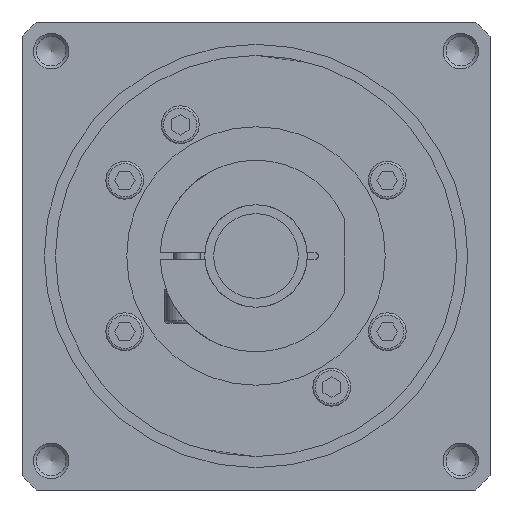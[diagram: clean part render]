
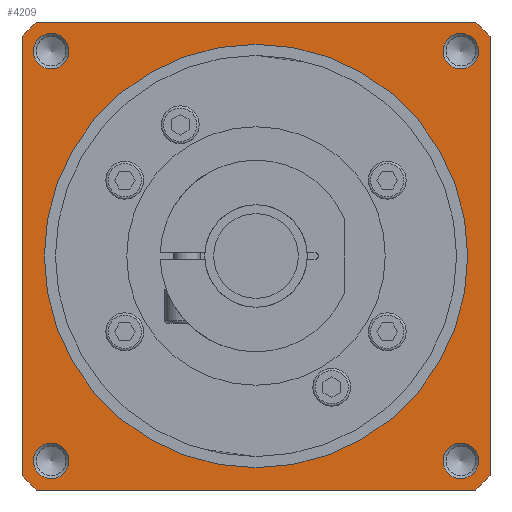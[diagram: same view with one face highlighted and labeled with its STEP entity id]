
A CAD part, left-side view. The second image highlights one B-rep face of the part: STEP entity #4209.
In plain terms, the highlighted planar face has unit normal (-1, 0, 0) as drawn and (0, 0, 1) by its records, which use the part's own axes.
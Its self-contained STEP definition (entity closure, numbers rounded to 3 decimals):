
#2697=LINE('',#12368,#3183);
#2701=LINE('',#12379,#3187);
#2707=LINE('',#12445,#3193);
#2711=LINE('',#12460,#3197);
#3183=VECTOR('',#10108,1.);
#3187=VECTOR('',#10116,1.);
#3193=VECTOR('',#10144,1.);
#3197=VECTOR('',#10162,1.);
#3566=PLANE('',#8730);
#3837=FACE_BOUND('',#4944,.T.);
#3838=FACE_BOUND('',#4945,.T.);
#3839=FACE_BOUND('',#4946,.T.);
#3840=FACE_BOUND('',#4947,.T.);
#3841=FACE_BOUND('',#4948,.T.);
#3842=FACE_BOUND('',#4949,.T.);
#4209=ADVANCED_FACE('',(#3837,#3838,#3839,#3840,#3841,#3842),#3566,.T.);
#4944=EDGE_LOOP('',(#6548));
#4945=EDGE_LOOP('',(#6549));
#4946=EDGE_LOOP('',(#6550));
#4947=EDGE_LOOP('',(#6551));
#4948=EDGE_LOOP('',(#6552));
#4949=EDGE_LOOP('',(#6553,#6554,#6555,#6556,#6557,#6558,#6559,#6560));
#5251=CIRCLE('',#8709,72.);
#5253=CIRCLE('',#8712,72.);
#5255=CIRCLE('',#8716,72.);
#5257=CIRCLE('',#8719,72.);
#5260=CIRCLE('',#8725,4.);
#5261=CIRCLE('',#8726,4.);
#5262=CIRCLE('',#8727,4.);
#5263=CIRCLE('',#8728,4.);
#5264=CIRCLE('',#8729,47.5);
#6548=ORIENTED_EDGE('',*,*,#8041,.T.);
#6549=ORIENTED_EDGE('',*,*,#8042,.T.);
#6550=ORIENTED_EDGE('',*,*,#8043,.T.);
#6551=ORIENTED_EDGE('',*,*,#8044,.T.);
#6552=ORIENTED_EDGE('',*,*,#8045,.T.);
#6553=ORIENTED_EDGE('',*,*,#8024,.T.);
#6554=ORIENTED_EDGE('',*,*,#8015,.T.);
#6555=ORIENTED_EDGE('',*,*,#8027,.T.);
#6556=ORIENTED_EDGE('',*,*,#8030,.T.);
#6557=ORIENTED_EDGE('',*,*,#8033,.T.);
#6558=ORIENTED_EDGE('',*,*,#8010,.T.);
#6559=ORIENTED_EDGE('',*,*,#8035,.T.);
#6560=ORIENTED_EDGE('',*,*,#8038,.T.);
#7273=VERTEX_POINT('',#12369);
#7274=VERTEX_POINT('',#12370);
#7278=VERTEX_POINT('',#12380);
#7279=VERTEX_POINT('',#12381);
#7287=VERTEX_POINT('',#12434);
#7289=VERTEX_POINT('',#12440);
#7291=VERTEX_POINT('',#12446);
#7293=VERTEX_POINT('',#12455);
#7296=VERTEX_POINT('',#12467);
#7297=VERTEX_POINT('',#12469);
#7298=VERTEX_POINT('',#12471);
#7299=VERTEX_POINT('',#12473);
#7300=VERTEX_POINT('',#12475);
#8010=EDGE_CURVE('',#7273,#7274,#2697,.T.);
#8015=EDGE_CURVE('',#7278,#7279,#2701,.T.);
#8024=EDGE_CURVE('',#7287,#7278,#5251,.T.);
#8027=EDGE_CURVE('',#7279,#7289,#5253,.T.);
#8030=EDGE_CURVE('',#7289,#7291,#2707,.T.);
#8033=EDGE_CURVE('',#7291,#7273,#5255,.T.);
#8035=EDGE_CURVE('',#7274,#7293,#5257,.T.);
#8038=EDGE_CURVE('',#7293,#7287,#2711,.T.);
#8041=EDGE_CURVE('',#7296,#7296,#5260,.T.);
#8042=EDGE_CURVE('',#7297,#7297,#5261,.T.);
#8043=EDGE_CURVE('',#7298,#7298,#5262,.T.);
#8044=EDGE_CURVE('',#7299,#7299,#5263,.T.);
#8045=EDGE_CURVE('',#7300,#7300,#5264,.T.);
#8709=AXIS2_PLACEMENT_3D('',#12433,#10130,#10131);
#8712=AXIS2_PLACEMENT_3D('',#12439,#10137,#10138);
#8716=AXIS2_PLACEMENT_3D('',#12451,#10149,#10150);
#8719=AXIS2_PLACEMENT_3D('',#12454,#10155,#10156);
#8725=AXIS2_PLACEMENT_3D('',#12466,#10170,#10171);
#8726=AXIS2_PLACEMENT_3D('',#12468,#10172,#10173);
#8727=AXIS2_PLACEMENT_3D('',#12470,#10174,#10175);
#8728=AXIS2_PLACEMENT_3D('',#12472,#10176,#10177);
#8729=AXIS2_PLACEMENT_3D('',#12474,#10178,#10179);
#8730=AXIS2_PLACEMENT_3D('',#12476,#10180,#10181);
#10108=DIRECTION('',(0.,1.,0.));
#10116=DIRECTION('',(0.,-1.,0.));
#10130=DIRECTION('',(0.,0.,1.));
#10131=DIRECTION('',(1.,0.,0.));
#10137=DIRECTION('',(0.,0.,1.));
#10138=DIRECTION('',(1.,0.,0.));
#10144=DIRECTION('',(1.,0.,0.));
#10149=DIRECTION('',(0.,0.,1.));
#10150=DIRECTION('',(1.,0.,0.));
#10155=DIRECTION('',(0.,0.,1.));
#10156=DIRECTION('',(1.,0.,0.));
#10162=DIRECTION('',(-1.,0.,0.));
#10170=DIRECTION('',(0.,0.,-1.));
#10171=DIRECTION('',(-1.,0.,0.));
#10172=DIRECTION('',(0.,0.,-1.));
#10173=DIRECTION('',(-1.,0.,0.));
#10174=DIRECTION('',(0.,0.,-1.));
#10175=DIRECTION('',(-1.,0.,0.));
#10176=DIRECTION('',(0.,0.,-1.));
#10177=DIRECTION('',(-1.,0.,0.));
#10178=DIRECTION('',(0.,0.,-1.));
#10179=DIRECTION('',(-1.,0.,0.));
#10180=DIRECTION('',(0.,0.,1.));
#10181=DIRECTION('',(-1.,0.,0.));
#12368=CARTESIAN_POINT('',(52.5,0.,0.));
#12369=CARTESIAN_POINT('',(52.5,-49.272,0.));
#12370=CARTESIAN_POINT('',(52.5,49.272,0.));
#12379=CARTESIAN_POINT('',(-52.5,0.,0.));
#12380=CARTESIAN_POINT('',(-52.5,49.272,0.));
#12381=CARTESIAN_POINT('',(-52.5,-49.272,0.));
#12433=CARTESIAN_POINT('',(0.,0.,0.));
#12434=CARTESIAN_POINT('',(-49.272,52.5,0.));
#12439=CARTESIAN_POINT('',(0.,0.,0.));
#12440=CARTESIAN_POINT('',(-49.272,-52.5,0.));
#12445=CARTESIAN_POINT('',(0.,-52.5,0.));
#12446=CARTESIAN_POINT('',(49.272,-52.5,0.));
#12451=CARTESIAN_POINT('',(0.,0.,0.));
#12454=CARTESIAN_POINT('',(0.,0.,
0.));
#12455=CARTESIAN_POINT('',(49.272,52.5,0.));
#12460=CARTESIAN_POINT('',(0.,52.5,0.));
#12466=CARTESIAN_POINT('',(-45.962,45.962,0.));
#12467=CARTESIAN_POINT('',(-49.962,45.962,0.));
#12468=CARTESIAN_POINT('',(-45.962,-45.962,0.));
#12469=CARTESIAN_POINT('',(-49.962,-45.962,0.));
#12470=CARTESIAN_POINT('',(45.962,-45.962,0.));
#12471=CARTESIAN_POINT('',(41.962,-45.962,0.));
#12472=CARTESIAN_POINT('',(45.962,45.962,0.));
#12473=CARTESIAN_POINT('',(41.962,45.962,0.));
#12474=CARTESIAN_POINT('',(0.,0.,0.));
#12475=CARTESIAN_POINT('',(-47.5,0.,0.));
#12476=CARTESIAN_POINT('',(0.,0.,0.));
